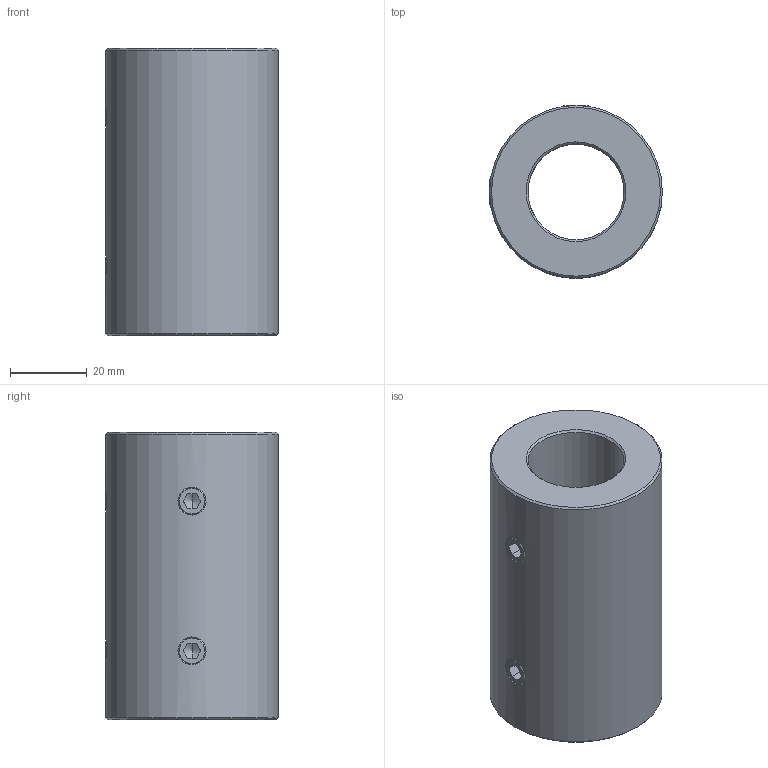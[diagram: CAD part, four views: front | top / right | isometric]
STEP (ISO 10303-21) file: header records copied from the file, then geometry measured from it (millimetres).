
FILE_DESCRIPTION (( 'STEP AP214' ), '1' );
FILE_NAME ('KBST1-VA-25.STEP', '2025-07-29T06:59:11', ( '' ), ( '' ), 'SwSTEP 2.0', 'SolidWorks 2024', '' );
FILE_SCHEMA (( 'AUTOMOTIVE_DESIGN' ));
Length unit declared in the file: millimetre
Products named in the file (1): KBST1-VA-25
Bounding box: 45 x 45 x 75 mm (x, y, z)
Volume: 82193.4 mm3; surface area: 20228 mm2
Topology: 5 solids, 5 shells, 80 faces, 186 edges, 112 vertices
Faces by surface type: plane 34, cone 28, cylinder 14, bspline 4
Full cylindrical faces by diameter (mm): 6.8 x4, 25 x1, 45 x1
Entity records: 8735 total; most frequent: CARTESIAN_POINT 6153, ORIENTED_EDGE 328, DIRECTION 314, EDGE_CURVE 164, AXIS2_PLACEMENT_3D 117, VERTEX_POINT 112, EDGE_LOOP 108, FACE_OUTER_BOUND 90
